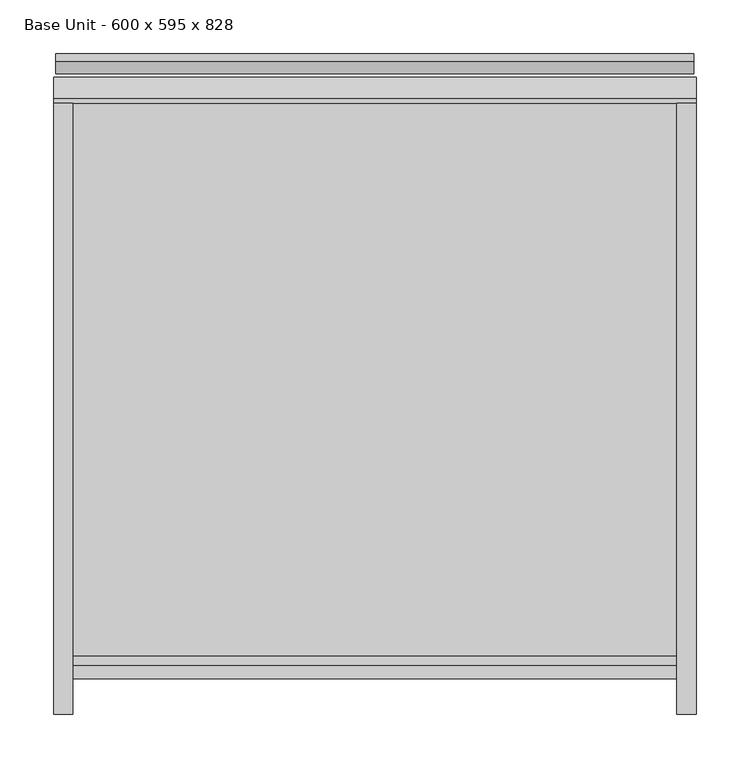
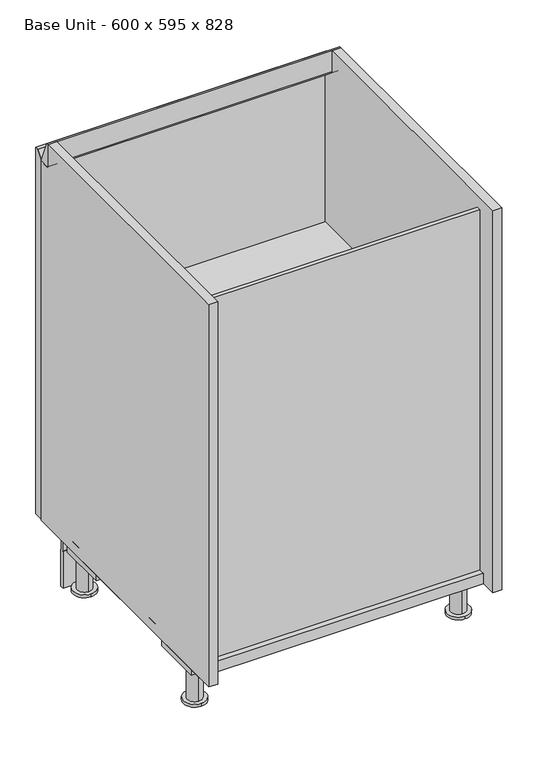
"""IFC4 building model written with IfcOpenShell, lengths in millimetres: furniture geometry, Furniture_Other-Furniture_Molteni&C_Prime_Base : Base Unit - 600 x 595 x 828."""

import ifcopenshell
import ifcopenshell.guid

model = None  # the IFC model being written
_history = None  # IfcOwnerHistory: only IFC2X3 demands one
_inside = {}  # id of a spatial element -> (the spatial element, [elements in it])
_under = {}  # id of a project, library or spatial element -> (it, [spatial elements below it])
_declared = {}  # id of a project -> (the project, [libraries it declares])
_typed = {}  # id of a type object -> (the type object, [elements of that type])
_made_of = {}  # id of a material, layer set ... -> (it, [elements and type objects made of it])


def new_model(schema):
    """Start an empty IFC model of exactly this schema.

    Asked for "IFC4X3", IfcOpenShell would pick the latest addendum, in which some entities
    have other attributes; the version numbers below select the first issue.
    IFC2X3 requires an IfcOwnerHistory on every rooted entity: one is made here for all.
    """
    global model, _history
    if schema == "IFC4X3":
        model = ifcopenshell.file(schema_version=(4, 3, 0, 0))
    else:
        model = ifcopenshell.file(schema=schema)
    _inside.clear()
    _under.clear()
    _declared.clear()
    _typed.clear()
    _made_of.clear()
    _history = None
    if model.schema == "IFC2X3":
        org = make("IfcOrganization", Name="unknown")
        user = make(
            "IfcPersonAndOrganization",
            ThePerson=make("IfcPerson", FamilyName="unknown"),
            TheOrganization=org,
        )
        app = make(
            "IfcApplication",
            ApplicationDeveloper=org,
            Version="unknown",
            ApplicationFullName="unknown",
            ApplicationIdentifier="unknown",
        )
        _history = make(
            "IfcOwnerHistory",
            OwningUser=user,
            OwningApplication=app,
            ChangeAction="ADDED",
            CreationDate=0,
        )
    return model


def make(cls, **values):
    """One entity of the class cls with the attributes given. An attribute that is None is left unset."""
    return model.create_entity(
        cls, **{name: value for name, value in values.items() if value is not None}
    )


def rooted(cls, **values):
    """An entity with a GlobalId (a new one), such as an element, a storey or a relation."""
    return make(cls, GlobalId=ifcopenshell.guid.new(), OwnerHistory=_history, **values)


def si_unit(unit_type, name, prefix=None):
    """IfcSIUnit, for example si_unit("LENGTHUNIT", "METRE", prefix="MILLI")."""
    return make("IfcSIUnit", UnitType=unit_type, Prefix=prefix, Name=name)


def assignment(units):
    """IfcUnitAssignment: the units of a project."""
    return None if units is None else make("IfcUnitAssignment", Units=units)


def point(xyz):
    """IfcCartesianPoint."""
    return None if xyz is None else make("IfcCartesianPoint", Coordinates=xyz)


def direction(xyz):
    """IfcDirection."""
    return None if xyz is None else make("IfcDirection", DirectionRatios=xyz)


def frame(location, z_axis=None, x_axis=None):
    """IfcAxis2Placement3D, a coordinate frame: its origin and axes. An axis left out is left unset."""
    return make(
        "IfcAxis2Placement3D",
        Location=point(location),
        Axis=direction(z_axis),
        RefDirection=direction(x_axis),
    )


def frame_2d(location, x_axis=None):
    """IfcAxis2Placement2D, a coordinate frame in the plane: its origin and x axis."""
    return make(
        "IfcAxis2Placement2D", Location=point(location), RefDirection=direction(x_axis)
    )


def origin():
    """The frame at (0, 0, 0) with its axes left unset."""
    return frame((0.0, 0.0, 0.0))


def place(relative_to, where):
    """IfcLocalPlacement: puts the frame where relative to a parent placement (None: the world)."""
    return make(
        "IfcLocalPlacement", PlacementRelTo=relative_to, RelativePlacement=where
    )


def context(
    kind, dimensions, precision=None, world=None, true_north=None, identifier=None
):
    """IfcGeometricRepresentationContext, for example the 3D "Model" context."""
    return make(
        "IfcGeometricRepresentationContext",
        ContextIdentifier=identifier,
        ContextType=kind,
        CoordinateSpaceDimension=dimensions,
        Precision=precision,
        WorldCoordinateSystem=world,
        TrueNorth=true_north,
    )


def project(units=None, contexts=None):
    """IfcProject with its units and contexts."""
    return rooted(
        "IfcProject",
        Name="project",
        RepresentationContexts=contexts,
        UnitsInContext=assignment(units),
    )


def spatial(cls, under=None, at=None, **own):
    """A site, building, storey or space (cls), placed at a placement, below another one or the project."""
    s = rooted(cls, ObjectPlacement=at, **own)
    if under is not None:
        _under.setdefault(under.id(), (under, []))[1].append(s)
    return s


def polyline(points):
    """IfcPolyline through the points."""
    return make("IfcPolyline", Points=[point(p) for p in points])


def circle_curve(where, radius):
    """IfcCircle in the frame where."""
    return make("IfcCircle", Position=where, Radius=radius)


def trimmed(basis, trim1, trim2, sense, master):
    """IfcTrimmedCurve: the piece of a basis curve between two trims."""
    return make(
        "IfcTrimmedCurve",
        BasisCurve=basis,
        Trim1=trim1,
        Trim2=trim2,
        SenseAgreement=sense,
        MasterRepresentation=master,
    )


def segment(curve, same_sense, transition):
    """IfcCompositeCurveSegment."""
    return make(
        "IfcCompositeCurveSegment",
        Transition=transition,
        SameSense=same_sense,
        ParentCurve=curve,
    )


def composite_curve(segments, self_intersect=None):
    """IfcCompositeCurve: segments joined end to end."""
    return make("IfcCompositeCurve", Segments=segments, SelfIntersect=self_intersect)


def outline(outer, holes=None, kind="AREA"):
    """IfcArbitraryClosedProfileDef: a profile drawn as a closed curve; with holes, ...WithVoids."""
    if holes is None:
        return make("IfcArbitraryClosedProfileDef", ProfileType=kind, OuterCurve=outer)
    return make(
        "IfcArbitraryProfileDefWithVoids",
        ProfileType=kind,
        OuterCurve=outer,
        InnerCurves=holes,
    )


def extrude(swept, where, along, depth):
    """IfcExtrudedAreaSolid: the profile swept, set in the frame where, extruded along a direction by depth."""
    return make(
        "IfcExtrudedAreaSolid",
        SweptArea=swept,
        Position=where,
        ExtrudedDirection=direction(along),
        Depth=depth,
    )


def faces_of(points, faces, orient=None, outer=None):
    """IfcFace entities. A face is a list of loops; a loop is a list of indices into points, from 0.

    orient and outer hold one flag for each loop. By default every Orientation is true, the
    first loop of a face is its IfcFaceOuterBound and the others are IfcFaceBound.
    """
    made = []
    for i, loops in enumerate(faces):
        bounds = []
        for j, loop in enumerate(loops):
            is_outer = j == 0 if outer is None else outer[i][j]
            bounds.append(
                make(
                    "IfcFaceOuterBound" if is_outer else "IfcFaceBound",
                    Bound=make("IfcPolyLoop", Polygon=[points[k] for k in loop]),
                    Orientation=True if orient is None else orient[i][j],
                )
            )
        made.append(make("IfcFace", Bounds=bounds))
    return made


def faceted_brep(points, faces, orient=None, outer=None, voids=None):
    """IfcFacetedBrep: a solid bounded by flat faces; with voids (closed shells), ...WithVoids."""
    shared = [point(p) for p in points]
    hull = make("IfcClosedShell", CfsFaces=faces_of(shared, faces, orient, outer))
    if voids is None:
        return make("IfcFacetedBrep", Outer=hull)
    return make(
        "IfcFacetedBrepWithVoids",
        Outer=hull,
        Voids=[
            make(cls, CfsFaces=faces_of(shared, fs, o, b)) for cls, fs, o, b in voids
        ],
    )


def shape(context_of_items, identifier, shape_type, items):
    """IfcShapeRepresentation: the items that make up one representation, for example the "Body"."""
    return make(
        "IfcShapeRepresentation",
        ContextOfItems=context_of_items,
        RepresentationIdentifier=identifier,
        RepresentationType=shape_type,
        Items=items,
    )


def source(mapping_origin, context_of_items, identifier, shape_type, items):
    """IfcRepresentationMap: a shape defined once, which mapped items show again and again."""
    return make(
        "IfcRepresentationMap",
        MappingOrigin=mapping_origin,
        MappedRepresentation=shape(context_of_items, identifier, shape_type, items),
    )


def transform(
    local_origin,
    x_axis=None,
    y_axis=None,
    z_axis=None,
    scale=None,
    scale2=None,
    scale3=None,
    uniform=True,
):
    """IfcCartesianTransformationOperator3D, or its non-uniform kind. x_axis, y_axis, z_axis: its Axis1, 2, 3."""
    if uniform:
        return make(
            "IfcCartesianTransformationOperator3D",
            Axis1=direction(x_axis),
            Axis2=direction(y_axis),
            LocalOrigin=point(local_origin),
            Scale=scale,
            Axis3=direction(z_axis),
        )
    return make(
        "IfcCartesianTransformationOperator3DnonUniform",
        Axis1=direction(x_axis),
        Axis2=direction(y_axis),
        LocalOrigin=point(local_origin),
        Scale=scale,
        Axis3=direction(z_axis),
        Scale2=scale2,
        Scale3=scale3,
    )


def mapped(mapping_source, mapping_target):
    """IfcMappedItem: shows the shape of a source again, moved by a transform."""
    return make(
        "IfcMappedItem", MappingSource=mapping_source, MappingTarget=mapping_target
    )


def made_of(thing, what):
    """Note that an element or type object is made of a material, layer set ...; save() writes the relation."""
    if what is not None:
        _made_of.setdefault(what.id(), (what, []))[1].append(thing)
    return thing


def element(
    cls,
    number,
    at=None,
    inside=None,
    cuts=None,
    type_object=None,
    material=None,
    context=None,
    identifier="Body",
    shape_type=None,
    held_by="IfcProductDefinitionShape",
    body=None,
    shapes=None,
    **own,
):
    """One element of the class cls, such as IfcWall. Its Tag is "e" and its number.

    at: its placement. inside: the storey or other place that contains it. cuts: it is an
    opening in that element (IfcRelVoidsElement). A single representation is given by context,
    identifier, shape_type and body (its items); several are given by shapes. held_by: the class
    of the entity that holds the representations. save() writes the other relations.
    """
    e = rooted(cls, Tag="e%d" % number, ObjectPlacement=at, **own)
    if body is not None:
        shapes = [shape(context, identifier, shape_type, body)]
    if shapes is not None:
        e.Representation = make(held_by, Representations=shapes)
    if inside is not None:
        _inside.setdefault(inside.id(), (inside, []))[1].append(e)
    if cuts is not None:
        rooted(
            "IfcRelVoidsElement", RelatingBuildingElement=cuts, RelatedOpeningElement=e
        )
    if type_object is not None:
        _typed.setdefault(type_object.id(), (type_object, []))[1].append(e)
    return made_of(e, material)


def aggregate(whole, parts):
    """IfcRelAggregates: a whole, such as a stair, and the parts it consists of."""
    return rooted("IfcRelAggregates", RelatingObject=whole, RelatedObjects=parts)


def save(model, path):
    """Write the relations noted so far, then the file.

    IfcRelAggregates (storeys below a building ...), IfcRelContainedInSpatialStructure (elements
    in a storey), IfcRelDefinesByType, IfcRelAssociatesMaterial and IfcRelDeclares: one each for
    every whole, place, type object, material and project.
    """
    for whole, parts in _under.values():
        aggregate(whole, parts)
    for where, things in _inside.values():
        rooted(
            "IfcRelContainedInSpatialStructure",
            RelatedElements=things,
            RelatingStructure=where,
        )
    for kind, things in _typed.values():
        rooted("IfcRelDefinesByType", RelatedObjects=things, RelatingType=kind)
    for what, things in _made_of.values():
        rooted("IfcRelAssociatesMaterial", RelatedObjects=things, RelatingMaterial=what)
    for by, libraries in _declared.values():
        rooted("IfcRelDeclares", RelatingContext=by, RelatedDefinitions=libraries)
    model.write(path)


def plane_surface(at):
    """IfcPlane: the flat surface through the origin of the frame at, square to its z axis."""
    return make("IfcPlane", Position=at)


def cylinder_surface(at, radius):
    """IfcCylindricalSurface: all points at the distance radius from the z axis of the frame at."""
    return make("IfcCylindricalSurface", Position=at, Radius=radius)


def advanced_brep(points, edges, surfaces, faces):
    """IfcAdvancedBrep: a solid bounded by faces that lie on surfaces and meet in shared edges.

    An edge is (start, end): straight between two places in points (the first is 0);
    or (start, end, curve); or (start, end, curve, False) where it runs against its curve.
    A face is (place in surfaces, loops), or (place, loops, False) where it looks against
    its surface's normal. A loop lists edges by number (the first is 1), with a minus sign
    where the edge is run from its end to its start. The first loop is the outer one.
    """
    corners = [point(p) for p in points]
    vertices = [make("IfcVertexPoint", VertexGeometry=c) for c in corners]
    made = []
    for start, end, *more in edges:
        made.append(
            make(
                "IfcEdgeCurve",
                EdgeStart=vertices[start],
                EdgeEnd=vertices[end],
                EdgeGeometry=more[0] if more else make("IfcPolyline", Points=[corners[start], corners[end]]),
                SameSense=more[1] if len(more) > 1 else True,
            )
        )
    hull = []
    for where, loops, *sense in faces:
        bounds = []
        for j, loop in enumerate(loops):
            ring = [make("IfcOrientedEdge", EdgeElement=made[abs(k) - 1], Orientation=k > 0) for k in loop]
            bounds.append(
                make(
                    "IfcFaceOuterBound" if j == 0 else "IfcFaceBound",
                    Bound=make("IfcEdgeLoop", EdgeList=ring),
                    Orientation=True,
                )
            )
        hull.append(make("IfcAdvancedFace", Bounds=bounds, FaceSurface=surfaces[where], SameSense=sense[0] if sense else True))
    return make("IfcAdvancedBrep", Outer=make("IfcClosedShell", CfsFaces=hull))


def base_unit_600_x_595_x_828_324a6826(model_context):
    return source(origin(), model_context, "Body", "SolidModel", [
        extrude(outline(polyline([(282.0, -243.4999806), (-282.0, -243.4999806), (-282.0, 297.5), (282.0, 297.5), (282.0, -243.4999806)])), frame((0.0, 0.0, 521.0), z_axis=(0.0, 0.0, 1.0), x_axis=(1.0, 0.0, 0.0)), (0.0, 0.0, 1.0), 22.0),
        extrude(outline(composite_curve([segment(polyline([(273.0222513, 928.0), (273.0222513, 882.3794292)]), True, "CONTINUOUS"), segment(trimmed(circle_curve(frame_2d((277.034701, 882.3794292)), 4.0124497), [point((273.0222513, 882.3794292))], [point((277.034701, 878.3669795))], True, "CARTESIAN"), True, "CONTINUOUS"), segment(polyline([(277.034701, 878.3669795), (297.5, 878.3669795), (297.5, 696.0050795), (297.5, 618.8689315), (297.5, 100.0), (-297.5, 100.0), (-297.5, 928.0), (273.0222513, 928.0)]), True, "CONTINUOUS")], self_intersect=False)), frame((-300.0, 0.0, 0.0), z_axis=(1.0, 0.0, 0.0), x_axis=(0.0, 1.0, 0.0)), (0.0, 0.0, 1.0), 18.0),
        extrude(outline(composite_curve([segment(polyline([(273.0222513, 928.0), (273.0222513, 882.3794292)]), True, "CONTINUOUS"), segment(trimmed(circle_curve(frame_2d((277.034701, 882.3794292)), 4.0124497), [point((273.0222513, 882.3794292))], [point((277.034701, 878.3669795))], True, "CARTESIAN"), True, "CONTINUOUS"), segment(polyline([(277.034701, 878.3669795), (297.5, 878.3669795), (297.5, 728.3662692), (297.5, 522.8850722), (297.5, 100.0), (-297.5, 100.0), (-297.5, 928.0), (273.0222513, 928.0)]), True, "CONTINUOUS")], self_intersect=False)), frame((282.0, 0.0, 0.0), z_axis=(1.0, 0.0, 0.0), x_axis=(0.0, 1.0, 0.0)), (0.0, 0.0, 1.0), 18.0),
        advanced_brep(
        [(300.0, 227.5, 80.0), (300.0, 226.5, 80.0), (300.0, 226.5, 100.0), (300.0, 220.5, 100.0), (300.0, 220.5, 80.0), (300.0, 219.5, 80.0), (300.0, 219.5, 0.0), (300.0, 227.5, 0.0), (-300.0, 227.5, 80.0), (-300.0, 227.5, 0.0), (-300.0, 219.5, 0.0), (-300.0, 219.5, 80.0), (-300.0, 220.5, 80.0), (-300.0, 220.5, 100.0), (-300.0, 226.5, 100.0), (-300.0, 226.5, 80.0), (292.0, 219.5, 80.0), (292.0, 219.5, 76.0), (187.0, 219.5, 76.0), (187.0, 219.5, 80.0), (-187.4, 219.5, 80.0), (-187.4, 219.5, 76.0), (-292.0, 219.5, 76.0), (-292.0, 219.5, 80.0), (-292.0, 220.2543184, 80.0), (-187.4, 220.2543184, 80.0), (187.0, 220.2543184, 80.0), (292.0, 220.2543184, 80.0), (292.0, 220.2543184, 100.0), (187.0, 220.2543184, 100.0), (187.0, 183.4214322, 100.0), (262.0, 116.0117937, 100.0), (292.0, 116.0117937, 100.0), (-292.0, 220.2543184, 100.0), (-292.0, 116.0117937, 100.0), (-262.0, 116.0117937, 100.0), (-187.4, 183.3866121, 100.0), (-187.4, 220.2543184, 100.0), (187.0, 183.4214322, 76.0), (292.0, 116.0117937, 76.0), (262.0, 116.0117937, 76.0), (270.0, 210.450213, 76.0), (270.0, 180.450213, 76.0), (-292.0, 116.0117937, 76.0), (-187.4, 183.3866121, 76.0), (-262.0, 116.0117937, 76.0), (-270.0, 210.450213, 76.0), (-270.0, 180.450213, 76.0), (270.0, 172.0406948, 0.0), (270.0, 219.0487988, 0.0), (-270.0, 219.04912, 0.0), (-270.0, 172.041016, 0.0), (-270.0, 180.450213, 6.1757403), (-270.0, 210.450213, 6.1757403), (270.0, 180.450213, 6.1757403), (270.0, 210.450213, 6.1757403), (270.0, 172.0406948, 6.1757403), (270.0, 219.0487988, 6.1757403), (-270.0, 219.04912, 6.1757403), (-270.0, 172.041016, 6.1757403)],
        [
            (0, 1),
            (1, 2),
            (2, 3),
            (3, 4),
            (4, 5),
            (5, 6),
            (6, 7),
            (7, 0),
            (8, 9),
            (9, 10),
            (10, 11),
            (11, 12),
            (12, 13),
            (13, 14),
            (14, 15),
            (15, 8),
            (7, 9),
            (8, 0),
            (6, 10),
            (5, 16),
            (16, 17),
            (17, 18),
            (18, 19),
            (19, 20),
            (20, 21),
            (21, 22),
            (22, 23),
            (23, 11),
            (4, 12),
            (23, 24),
            (24, 25),
            (25, 20),
            (19, 26),
            (26, 27),
            (27, 16),
            (3, 13),
            (2, 14),
            (1, 15),
            (28, 29),
            (29, 30),
            (30, 31),
            (31, 32),
            (32, 28),
            (33, 34),
            (34, 35),
            (35, 36),
            (36, 37),
            (37, 33),
            (38, 18),
            (17, 39),
            (39, 40),
            (40, 38),
            (41, 42, circle_curve(frame((270.0, 195.450213, 76.0), z_axis=(0.0, 0.0, 1.0), x_axis=(1.0, 0.0, 0.0)), 15.0)),
            (42, 41, circle_curve(frame((270.0, 195.450213, 76.0), z_axis=(0.0, 0.0, 1.0), x_axis=(1.0, 0.0, 0.0)), 15.0)),
            (43, 22),
            (21, 44),
            (44, 45),
            (45, 43),
            (46, 47, circle_curve(frame((-270.0, 195.450213, 76.0), z_axis=(0.0, 0.0, 1.0), x_axis=(1.0, 0.0, 0.0)), 15.0)),
            (47, 46, circle_curve(frame((-270.0, 195.450213, 76.0), z_axis=(0.0, 0.0, 1.0), x_axis=(1.0, 0.0, 0.0)), 15.0)),
            (32, 39),
            (27, 28),
            (31, 40),
            (30, 38),
            (29, 26),
            (37, 25),
            (24, 33),
            (36, 44),
            (35, 45),
            (34, 43),
            (48, 49, circle_curve(frame((270.0, 195.5447468, 0.0), z_axis=(0.0, 0.0, -1.0), x_axis=(1.0, 0.0, 0.0)), 23.504052)),
            (49, 48, circle_curve(frame((270.0, 195.5447468, 0.0), z_axis=(0.0, 0.0, -1.0), x_axis=(1.0, 0.0, 0.0)), 23.504052)),
            (50, 51, circle_curve(frame((-270.0, 195.545068, 0.0), z_axis=(0.0, 0.0, -1.0), x_axis=(1.0, 0.0, 0.0)), 23.504052)),
            (51, 50, circle_curve(frame((-270.0, 195.545068, 0.0), z_axis=(0.0, 0.0, -1.0), x_axis=(1.0, 0.0, 0.0)), 23.504052)),
            (47, 52),
            (52, 53, circle_curve(frame((-270.0, 195.450213, 6.1757403), z_axis=(0.0, 0.0, 1.0), x_axis=(1.0, 0.0, 0.0)), 15.0)),
            (53, 46),
            (53, 52, circle_curve(frame((-270.0, 195.450213, 6.1757403), z_axis=(0.0, 0.0, 1.0), x_axis=(1.0, 0.0, 0.0)), 15.0)),
            (42, 54),
            (54, 55, circle_curve(frame((270.0, 195.450213, 6.1757403), z_axis=(0.0, 0.0, 1.0), x_axis=(1.0, 0.0, 0.0)), 15.0)),
            (55, 41),
            (55, 54, circle_curve(frame((270.0, 195.450213, 6.1757403), z_axis=(0.0, 0.0, 1.0), x_axis=(1.0, 0.0, 0.0)), 15.0)),
            (56, 57, circle_curve(frame((270.0, 195.5447468, 6.1757403), z_axis=(0.0, 0.0, 1.0), x_axis=(1.0, 0.0, 0.0)), 23.504052)),
            (57, 56, circle_curve(frame((270.0, 195.5447468, 6.1757403), z_axis=(0.0, 0.0, 1.0), x_axis=(1.0, 0.0, 0.0)), 23.504052)),
            (58, 59, circle_curve(frame((-270.0, 195.545068, 6.1757403), z_axis=(0.0, 0.0, 1.0), x_axis=(1.0, 0.0, 0.0)), 23.504052)),
            (59, 58, circle_curve(frame((-270.0, 195.545068, 6.1757403), z_axis=(0.0, 0.0, 1.0), x_axis=(1.0, 0.0, 0.0)), 23.504052)),
            (57, 49),
            (48, 56),
            (59, 51),
            (50, 58),
        ],
        [
            plane_surface(frame((300.0, 227.5, 0.0), z_axis=(1.0, 0.0, 0.0), x_axis=(0.0, 0.0, -1.0))),
            plane_surface(frame((-300.0, 227.5, 0.0), z_axis=(-1.0, 0.0, 0.0), x_axis=(0.0, 0.0, 1.0))),
            plane_surface(frame((300.0, 227.5, 80.0), z_axis=(0.0, 1.0, 0.0), x_axis=(-1.0, 0.0, 0.0))),
            plane_surface(frame((300.0, 227.5, 0.0), z_axis=(0.0, 0.0, -1.0), x_axis=(-1.0, 0.0, 0.0))),
            plane_surface(frame((300.0, 219.5, 0.0), z_axis=(0.0, -1.0, 0.0), x_axis=(-1.0, 0.0, 0.0))),
            plane_surface(frame((300.0, 219.5, 80.0), z_axis=(0.0, 0.0, 1.0), x_axis=(-1.0, 0.0, 0.0))),
            plane_surface(frame((300.0, 220.5, 80.0), z_axis=(0.0, -1.0, 0.0), x_axis=(-1.0, 0.0, 0.0))),
            plane_surface(frame((300.0, 220.5, 100.0), z_axis=(0.0, 0.0, 1.0), x_axis=(-1.0, 0.0, 0.0))),
            plane_surface(frame((300.0, 226.5, 100.0), z_axis=(0.0, 1.0, 0.0), x_axis=(-1.0, 0.0, 0.0))),
            plane_surface(frame((300.0, 226.5, 80.0), z_axis=(0.0, 0.0, 1.0), x_axis=(-1.0, 0.0, 0.0))),
            plane_surface(frame((-292.0, -116.2642334, 100.0), z_axis=(0.0, 0.0, 1.0), x_axis=(1.0, 0.0, 0.0))),
            plane_surface(frame((-292.0, -116.2642334, 76.0), z_axis=(0.0, 0.0, -1.0), x_axis=(-1.0, 0.0, 0.0))),
            plane_surface(frame((292.0, 220.2543184, 100.0), z_axis=(1.0, 0.0, 0.0), x_axis=(0.0, 0.0, -1.0))),
            plane_surface(frame((292.0, 116.0117937, 100.0), z_axis=(0.0, -1.0, 0.0), x_axis=(0.0, 0.0, -1.0))),
            plane_surface(frame((262.0, 116.0117937, 100.0), z_axis=(-0.6684695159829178, -0.7437395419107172, 0.0), x_axis=(0.0, 0.0, -1.0))),
            plane_surface(frame((187.0, 183.4214322, 100.0), z_axis=(-1.0, 0.0, 0.0), x_axis=(0.0, 0.0, -1.0))),
            plane_surface(frame((187.0, 220.2543184, 100.0), z_axis=(0.0, 1.0, 0.0), x_axis=(0.0, 0.0, -1.0))),
            plane_surface(frame((-292.0, 220.2543184, 100.0), z_axis=(0.0, 1.0, 0.0), x_axis=(0.0, 0.0, -1.0))),
            plane_surface(frame((-187.4, 220.2543184, 100.0), z_axis=(1.0, 0.0, 0.0), x_axis=(0.0, 0.0, -1.0))),
            plane_surface(frame((-187.4, 183.3866121, 100.0), z_axis=(0.6702543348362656, -0.7421314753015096, 0.0), x_axis=(0.0, 0.0, -1.0))),
            plane_surface(frame((-262.0, 116.0117937, 100.0), z_axis=(0.0, -1.0, 0.0), x_axis=(0.0, 0.0, -1.0))),
            plane_surface(frame((-292.0, 116.0117937, 100.0), z_axis=(-1.0, 0.0, 0.0), x_axis=(0.0, 0.0, -1.0))),
            plane_surface(frame((-255.0, -195.450213, 0.0), z_axis=(0.0, 0.0, -1.0), x_axis=(0.0, 1.0, 0.0))),
            cylinder_surface(frame((-270.0, 195.450213, 0.0), z_axis=(0.0, 0.0, 1.0), x_axis=(1.0, 0.0, 0.0)), 15.0),
            cylinder_surface(frame((270.0, 195.450213, 0.0), z_axis=(0.0, 0.0, 1.0), x_axis=(1.0, 0.0, 0.0)), 15.0),
            plane_surface(frame((293.504052, 195.5447468, 6.1757403), z_axis=(0.0, 0.0, 1.0), x_axis=(0.0, -1.0, 0.0))),
            cylinder_surface(frame((270.0, 195.5447468, 0.0), z_axis=(0.0, 0.0, 1.0), x_axis=(1.0, 0.0, 0.0)), 23.504052),
            cylinder_surface(frame((-270.0, 195.545068, 0.0), z_axis=(0.0, 0.0, 1.0), x_axis=(1.0, 0.0, 0.0)), 23.504052),
        ],
        [
            (0, [[1, 2, 3, 4, 5, 6, 7, 8]]),
            (1, [[9, 10, 11, 12, 13, 14, 15, 16]]),
            (2, [[17, -9, 18, -8]]),
            (3, [[19, -10, -17, -7]]),
            (4, [[20, 21, 22, 23, 24, 25, 26, 27, 28, -11, -19, -6]]),
            (5, [[29, -12, -28, 30, 31, 32, -24, 33, 34, 35, -20, -5]]),
            (6, [[36, -13, -29, -4]]),
            (7, [[37, -14, -36, -3]]),
            (8, [[38, -15, -37, -2]]),
            (9, [[-18, -16, -38, -1]]),
            (10, [[39, 40, 41, 42, 43]]),
            (10, [[44, 45, 46, 47, 48]]),
            (11, [[49, -22, 50, 51, 52], [53, 54]]),
            (11, [[55, -26, 56, 57, 58], [59, 60]]),
            (12, [[61, -50, -21, -35, 62, -43]]),
            (13, [[63, -51, -61, -42]]),
            (14, [[64, -52, -63, -41]]),
            (15, [[65, -33, -23, -49, -64, -40]]),
            (16, [[-62, -34, -65, -39]]),
            (17, [[66, -31, 67, -48]]),
            (18, [[68, -56, -25, -32, -66, -47]]),
            (19, [[69, -57, -68, -46]]),
            (20, [[70, -58, -69, -45]]),
            (21, [[-67, -30, -27, -55, -70, -44]]),
            (22, [[71, 72]]),
            (22, [[73, 74]]),
            (23, [[75, 76, 77, -60]]),
            (23, [[-77, 78, -75, -59]]),
            (24, [[79, 80, 81, -54]]),
            (24, [[-81, 82, -79, -53]]),
            (25, [[83, 84], [-82, -80]]),
            (25, [[85, 86], [-78, -76]]),
            (26, [[87, -71, 88, -84]]),
            (26, [[-88, -72, -87, -83]]),
            (27, [[89, -73, 90, -86]]),
            (27, [[-90, -74, -89, -85]]),
        ],
    ),
        advanced_brep(
        [(-292.0, -116.2642334, 100.0), (-292.0, -220.9077377, 100.0), (-187.4, -220.9077377, 100.0), (-187.4, -183.6390518, 100.0), (-262.0, -116.2642334, 100.0), (-292.0, -116.2642334, 76.0), (-262.0, -116.2642334, 76.0), (-187.4, -183.6390518, 76.0), (-187.4, -220.9077377, 76.0), (-292.0, -220.9077377, 76.0), (-270.0, -180.450213, 76.0), (-270.0, -210.450213, 76.0), (-270.0, -219.004052, 0.0), (-270.0, -171.995948, 0.0), (-270.0, -210.450213, 6.1757403), (-270.0, -180.450213, 6.1757403), (-270.0, -219.004052, 6.1757403), (-270.0, -171.995948, 6.1757403)],
        [
            (0, 1),
            (1, 2),
            (2, 3),
            (3, 4),
            (4, 0),
            (5, 6),
            (6, 7),
            (7, 8),
            (8, 9),
            (9, 5),
            (10, 11, circle_curve(frame((-270.0, -195.450213, 76.0), z_axis=(0.0, 0.0, 1.0), x_axis=(1.0, 0.0, 0.0)), 15.0)),
            (11, 10, circle_curve(frame((-270.0, -195.450213, 76.0), z_axis=(0.0, 0.0, 1.0), x_axis=(1.0, 0.0, 0.0)), 15.0)),
            (4, 6),
            (5, 0),
            (3, 7),
            (2, 8),
            (1, 9),
            (12, 13, circle_curve(frame((-270.0, -195.5, 0.0), z_axis=(0.0, 0.0, -1.0), x_axis=(1.0, 0.0, 0.0)), 23.504052)),
            (13, 12, circle_curve(frame((-270.0, -195.5, 0.0), z_axis=(0.0, 0.0, -1.0), x_axis=(1.0, 0.0, 0.0)), 23.504052)),
            (11, 14),
            (14, 15, circle_curve(frame((-270.0, -195.450213, 6.1757403), z_axis=(0.0, 0.0, 1.0), x_axis=(1.0, 0.0, 0.0)), 15.0)),
            (15, 10),
            (15, 14, circle_curve(frame((-270.0, -195.450213, 6.1757403), z_axis=(0.0, 0.0, 1.0), x_axis=(1.0, 0.0, 0.0)), 15.0)),
            (16, 17, circle_curve(frame((-270.0, -195.5, 6.1757403), z_axis=(0.0, 0.0, 1.0), x_axis=(1.0, 0.0, 0.0)), 23.504052)),
            (17, 16, circle_curve(frame((-270.0, -195.5, 6.1757403), z_axis=(0.0, 0.0, 1.0), x_axis=(1.0, 0.0, 0.0)), 23.504052)),
            (17, 13),
            (12, 16),
        ],
        [
            plane_surface(frame((-292.0, -116.2642334, 100.0), z_axis=(0.0, 0.0, 1.0), x_axis=(1.0, 0.0, 0.0))),
            plane_surface(frame((-292.0, -116.2642334, 76.0), z_axis=(0.0, 0.0, -1.0), x_axis=(-1.0, 0.0, 0.0))),
            plane_surface(frame((-292.0, -116.2642334, 100.0), z_axis=(0.0, 1.0, 0.0), x_axis=(0.0, 0.0, -1.0))),
            plane_surface(frame((-262.0, -116.2642334, 100.0), z_axis=(0.6702543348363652, 0.7421314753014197, 0.0), x_axis=(0.0, 0.0, -1.0))),
            plane_surface(frame((-187.4, -183.6390518, 100.0), z_axis=(1.0, 0.0, 0.0), x_axis=(0.0, 0.0, -1.0))),
            plane_surface(frame((-187.4, -220.9077377, 100.0), z_axis=(0.0, -1.0, 0.0), x_axis=(0.0, 0.0, -1.0))),
            plane_surface(frame((-292.0, -220.9077377, 100.0), z_axis=(-1.0, 0.0, 0.0), x_axis=(0.0, 0.0, -1.0))),
            plane_surface(frame((-255.0, -195.450213, 0.0), z_axis=(0.0, 0.0, -1.0), x_axis=(0.0, 1.0, 0.0))),
            cylinder_surface(frame((-270.0, -195.450213, 0.0), z_axis=(0.0, 0.0, 1.0), x_axis=(1.0, 0.0, 0.0)), 15.0),
            plane_surface(frame((293.504052, 195.5447468, 6.1757403), z_axis=(0.0, 0.0, 1.0), x_axis=(0.0, -1.0, 0.0))),
            cylinder_surface(frame((-270.0, -195.5, 0.0), z_axis=(0.0, 0.0, 1.0), x_axis=(1.0, 0.0, 0.0)), 23.504052),
        ],
        [
            (0, [[1, 2, 3, 4, 5]]),
            (1, [[6, 7, 8, 9, 10], [11, 12]]),
            (2, [[13, -6, 14, -5]]),
            (3, [[15, -7, -13, -4]]),
            (4, [[16, -8, -15, -3]]),
            (5, [[17, -9, -16, -2]]),
            (6, [[-14, -10, -17, -1]]),
            (7, [[18, 19]]),
            (8, [[20, 21, 22, -12]]),
            (8, [[-22, 23, -20, -11]]),
            (9, [[24, 25], [-23, -21]]),
            (10, [[26, -18, 27, -25]]),
            (10, [[-27, -19, -26, -24]]),
        ],
    ),
        advanced_brep(
        [(292.0, -116.2642334, 100.0), (262.0, -116.2642334, 100.0), (187.0, -183.673872, 100.0), (187.0, -220.9077377, 100.0), (292.0, -220.9077377, 100.0), (292.0, -116.2642334, 76.0), (292.0, -220.9077377, 76.0), (187.0, -220.9077377, 76.0), (187.0, -183.673872, 76.0), (262.0, -116.2642334, 76.0), (270.0, -180.450213, 76.0), (270.0, -210.450213, 76.0), (270.0, -219.004052, 0.0), (270.0, -171.995948, 0.0), (270.0, -210.450213, 6.1757403), (270.0, -180.450213, 6.1757403), (270.0, -219.004052, 6.1757403), (270.0, -171.995948, 6.1757403)],
        [
            (0, 1),
            (1, 2),
            (2, 3),
            (3, 4),
            (4, 0),
            (5, 6),
            (6, 7),
            (7, 8),
            (8, 9),
            (9, 5),
            (10, 11, circle_curve(frame((270.0, -195.450213, 76.0), z_axis=(0.0, 0.0, 1.0), x_axis=(1.0, 0.0, 0.0)), 15.0)),
            (11, 10, circle_curve(frame((270.0, -195.450213, 76.0), z_axis=(0.0, 0.0, 1.0), x_axis=(1.0, 0.0, 0.0)), 15.0)),
            (4, 6),
            (5, 0),
            (3, 7),
            (2, 8),
            (1, 9),
            (12, 13, circle_curve(frame((270.0, -195.5, 0.0), z_axis=(0.0, 0.0, -1.0), x_axis=(1.0, 0.0, 0.0)), 23.504052)),
            (13, 12, circle_curve(frame((270.0, -195.5, 0.0), z_axis=(0.0, 0.0, -1.0), x_axis=(1.0, 0.0, 0.0)), 23.504052)),
            (11, 14),
            (14, 15, circle_curve(frame((270.0, -195.450213, 6.1757403), z_axis=(0.0, 0.0, 1.0), x_axis=(1.0, 0.0, 0.0)), 15.0)),
            (15, 10),
            (15, 14, circle_curve(frame((270.0, -195.450213, 6.1757403), z_axis=(0.0, 0.0, 1.0), x_axis=(1.0, 0.0, 0.0)), 15.0)),
            (16, 17, circle_curve(frame((270.0, -195.5, 6.1757403), z_axis=(0.0, 0.0, 1.0), x_axis=(1.0, 0.0, 0.0)), 23.504052)),
            (17, 16, circle_curve(frame((270.0, -195.5, 6.1757403), z_axis=(0.0, 0.0, 1.0), x_axis=(1.0, 0.0, 0.0)), 23.504052)),
            (17, 13),
            (12, 16),
        ],
        [
            plane_surface(frame((-292.0, -116.2642334, 100.0), z_axis=(0.0, 0.0, 1.0), x_axis=(1.0, 0.0, 0.0))),
            plane_surface(frame((-292.0, -116.2642334, 76.0), z_axis=(0.0, 0.0, -1.0), x_axis=(-1.0, 0.0, 0.0))),
            plane_surface(frame((292.0, -116.2642334, 100.0), z_axis=(1.0, 0.0, 0.0), x_axis=(0.0, 0.0, -1.0))),
            plane_surface(frame((292.0, -220.9077377, 100.0), z_axis=(0.0, -1.0, 0.0), x_axis=(0.0, 0.0, -1.0))),
            plane_surface(frame((187.0, -220.9077377, 100.0), z_axis=(-1.0, 0.0, 0.0), x_axis=(0.0, 0.0, -1.0))),
            plane_surface(frame((187.0, -183.673872, 100.0), z_axis=(-0.6684695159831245, 0.7437395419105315, 0.0), x_axis=(0.0, 0.0, -1.0))),
            plane_surface(frame((262.0, -116.2642334, 100.0), z_axis=(0.0, 1.0, 0.0), x_axis=(0.0, 0.0, -1.0))),
            plane_surface(frame((-255.0, -195.450213, 0.0), z_axis=(0.0, 0.0, -1.0), x_axis=(0.0, 1.0, 0.0))),
            cylinder_surface(frame((270.0, -195.450213, 0.0), z_axis=(0.0, 0.0, 1.0), x_axis=(1.0, 0.0, 0.0)), 15.0),
            plane_surface(frame((293.504052, 195.5447468, 6.1757403), z_axis=(0.0, 0.0, 1.0), x_axis=(0.0, -1.0, 0.0))),
            cylinder_surface(frame((270.0, -195.5, 0.0), z_axis=(0.0, 0.0, 1.0), x_axis=(1.0, 0.0, 0.0)), 23.504052),
        ],
        [
            (0, [[1, 2, 3, 4, 5]]),
            (1, [[6, 7, 8, 9, 10], [11, 12]]),
            (2, [[13, -6, 14, -5]]),
            (3, [[15, -7, -13, -4]]),
            (4, [[16, -8, -15, -3]]),
            (5, [[17, -9, -16, -2]]),
            (6, [[-14, -10, -17, -1]]),
            (7, [[18, 19]]),
            (8, [[20, 21, 22, -12]]),
            (8, [[-22, 23, -20, -11]]),
            (9, [[24, 25], [-23, -21]]),
            (10, [[26, -18, 27, -25]]),
            (10, [[-27, -19, -26, -24]]),
        ],
    ),
        faceted_brep([(-287.0, -251.5, 902.7620501), (287.0, -251.5, 902.7620501), (287.0, -243.4999806, 902.7620501), (-287.0, -243.4999806, 902.7620501), (-287.0, -243.4999806, 122.0), (-287.0, -243.4999806, 118.0), (-287.0, -251.5, 118.0), (-287.0, -251.5, 122.0), (287.0, -243.4999806, 122.0), (287.0, -251.5, 122.0), (287.0, -251.5, 118.0), (287.0, -243.4999806, 118.0), (300.0, -243.4999806, 122.0), (300.0, -243.4999806, 118.0), (300.0, -251.5, 118.0), (300.0, -251.5, 122.0), (300.0, -264.0007224, 122.0), (300.0, -264.0007224, 100.0), (300.0, 297.5, 100.0), (300.0, 297.5, 122.0), (-300.0, -243.4999806, 122.0), (-300.0, 297.5, 122.0), (-300.0, 297.5, 100.0), (-300.0, -264.0007224, 100.0), (-300.0, -264.0007224, 122.0), (-300.0, -251.5, 122.0), (-300.0, -251.5, 118.0), (-300.0, -243.4999806, 118.0)], [[[0, 1, 2, 3]], [[3, 4, 5, 6, 7, 0]], [[2, 8, 4, 3]], [[1, 9, 10, 11, 8, 2]], [[0, 7, 9, 1]], [[12, 13, 14, 15, 16, 17, 18, 19]], [[20, 21, 22, 23, 24, 25, 26, 27]], [[19, 21, 20, 4, 8, 12]], [[18, 22, 21, 19]], [[17, 23, 22, 18]], [[16, 24, 23, 17]], [[15, 9, 7, 25, 24, 16]], [[25, 7, 6, 26]], [[14, 10, 9, 15]], [[26, 6, 5, 27]], [[13, 11, 10, 14]], [[12, 8, 11, 13]], [[27, 5, 4, 20]]]),
        extrude(outline(composite_curve([segment(polyline([(297.5, 880.3416662), (297.5, 878.3669795), (277.034701, 878.3669795)]), True, "CONTINUOUS"), segment(trimmed(circle_curve(frame_2d((277.034701, 882.3794292)), 4.0124497), [point((277.034701, 878.3669795))], [point((273.0222513, 882.3794292))], False, "CARTESIAN"), True, "CONTINUOUS"), segment(polyline([(273.0222513, 882.3794292), (273.0222513, 928.0), (277.2702375, 928.0), (297.5, 880.3416662)]), True, "CONTINUOUS")], self_intersect=False)), frame((-300.0, 0.0, 0.0), z_axis=(1.0, 0.0, 0.0), x_axis=(0.0, 1.0, 0.0)), (0.0, 0.0, 1.0), 600.0),
        extrude(outline(polyline([(319.5, 100.0), (300.5, 100.0), (300.5, 878.498561), (312.4241838, 894.0), (319.5, 894.0), (319.5, 100.0)])), frame((-298.0, 0.0, 0.0), z_axis=(1.0, 0.0, 0.0), x_axis=(0.0, 1.0, 0.0)), (0.0, 0.0, 1.0), 596.0),
    ])


if __name__ == "__main__":
    model = new_model("IFC4")
    model_context = context("Model", 3, world=origin())
    ifc_project = project(units=[si_unit("LENGTHUNIT", "METRE", prefix="MILLI")], contexts=[model_context])
    site = spatial("IfcSite", under=ifc_project)
    building = spatial("IfcBuilding", under=site)
    placement = place(None, origin())
    base_unit_600_x_595_x_828_shape = base_unit_600_x_595_x_828_324a6826(model_context)
    element("IfcFurniture", 1, ObjectType="Furniture_Other-Furniture_Molteni&C_Prime_Base : Base Unit - 600 x 595 x 828", at=placement, inside=building, context=model_context, shape_type="MappedRepresentation", body=[
        mapped(base_unit_600_x_595_x_828_shape, transform((0.0, 0.0, 0.0), x_axis=(1.0, 0.0, 0.0), y_axis=(0.0, 1.0, 0.0), z_axis=(0.0, 0.0, 1.0))),
    ])
    save(model, "model.ifc")
